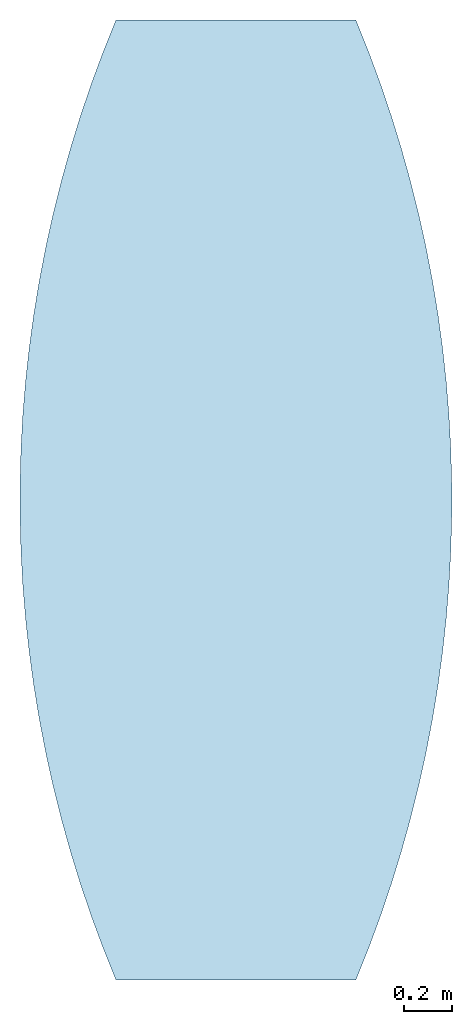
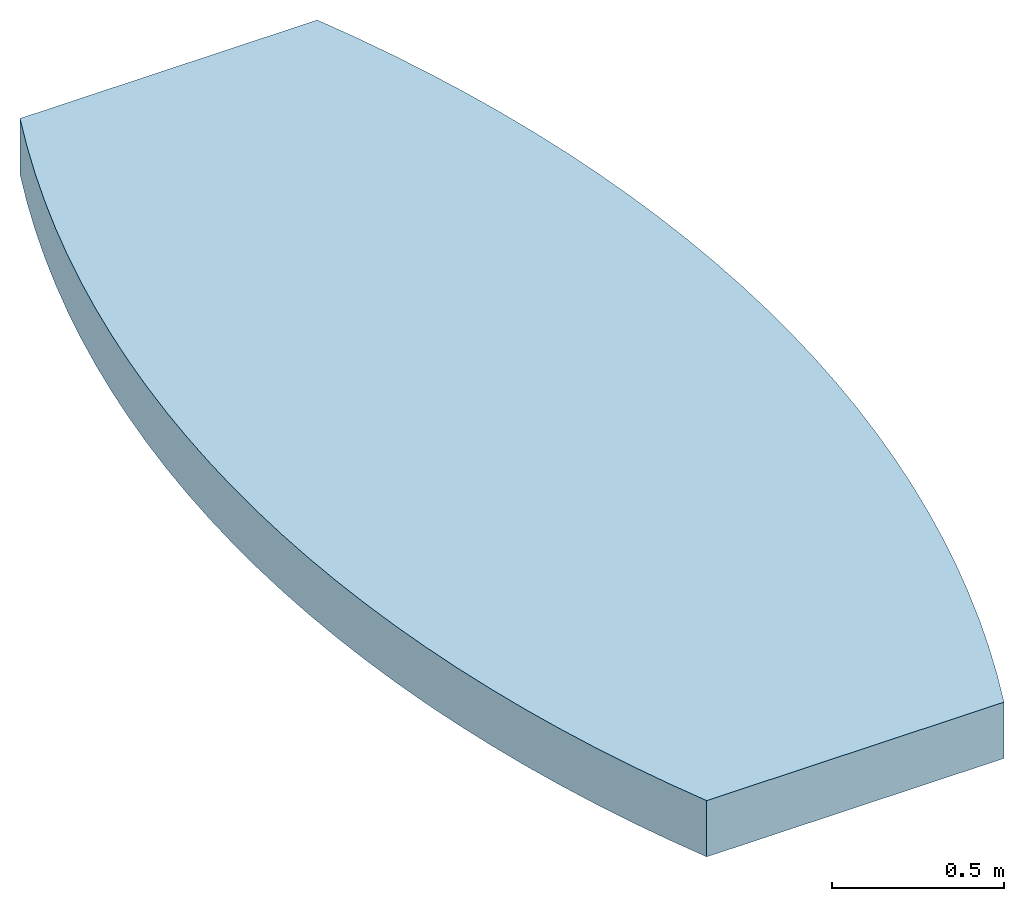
# Not in any storey: 1 slab.
"""IFC4 building model written with IfcOpenShell, lengths in millimetres."""

from ifc_helpers import new_model, si_unit, point, direction, frame, frame_2d, origin, place, context, subcontext, project, spatial, polyline, circle_curve, parameter, trimmed, segment, composite_curve, outline, extrude, material, layer, layer_set, layer_usage, type_object, element, save


model = new_model("IFC4")

# Units and contexts
model_context_1 = context("Model", 3, precision=0.0001, world=origin(), true_north=direction((0.0, 1.0)))
model_context_2 = context("Model", 3, precision=0.0001, world=origin(), true_north=direction((0.0, 1.0)))
body_context = subcontext(model_context_1, "Body", "Model", "MODEL_VIEW")
ifc_project = project(units=[si_unit("LENGTHUNIT", "METRE", prefix="MILLI"), si_unit("PLANEANGLEUNIT", "RADIAN"), si_unit("TIMEUNIT", "SECOND")], contexts=[model_context_2])

# Building
building_placement = place(None, origin())
building = spatial("IfcBuilding", under=ifc_project, at=building_placement, Name="IfcBuilding", CompositionType="ELEMENT")

# Slab
ifc_material = material(Name="Concrete")
ifc_layer = layer(ifc_material, 200.0, ventilated=False, Name="Core")
ifc_layer_set = layer_set([ifc_layer], Name="200mm Concrete")
ifc_layer_usage = layer_usage(ifc_layer_set, "AXIS3", "POSITIVE", -200.0)
slab_type = type_object("IfcSlabType", Name="200mm Concrete", PredefinedType="FLOOR", material=ifc_layer_set)
slab_placement = place(None, frame((0.0, 0.0, -200.0), z_axis=(0.0, 0.0, 1.0), x_axis=(1.0, 0.0, 0.0)))
element("IfcSlabStandardCase", 1, at=slab_placement, inside=building, type_object=slab_type, material=ifc_layer_usage, context=body_context, shape_type="SweptSolid", body=[
    extrude(outline(composite_curve([segment(polyline([(0.0, 0.0), (1000.0, 0.0)]), True, "CONTINUOUS"), segment(trimmed(circle_curve(frame_2d((-3800.00000000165, 2000.0), x_axis=(0.92307692, -0.38461538)), 5200.00000000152), [parameter(0.0), point((1000.0, 0.0))], [parameter(0.789582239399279), point((1000.0, 4000.0))], True, "PARAMETER"), True, "CONTINUOUS"), segment(polyline([(1000.0, 4000.0), (0.0, 4000.0)]), True, "CONTINUOUS"), segment(trimmed(circle_curve(frame_2d((4800.0, 2000.0), x_axis=(-0.92307692, 0.38461538)), 5200.0), [parameter(0.0), point((0.0, 4000.0))], [parameter(0.789582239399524), point((0.0, 0.0))], True, "PARAMETER"), True, "CONTINUOUS")], self_intersect="UNKNOWN")), None, (0.0, 0.0, 1.0), 200.0),
])

save(model, "model.ifc")
